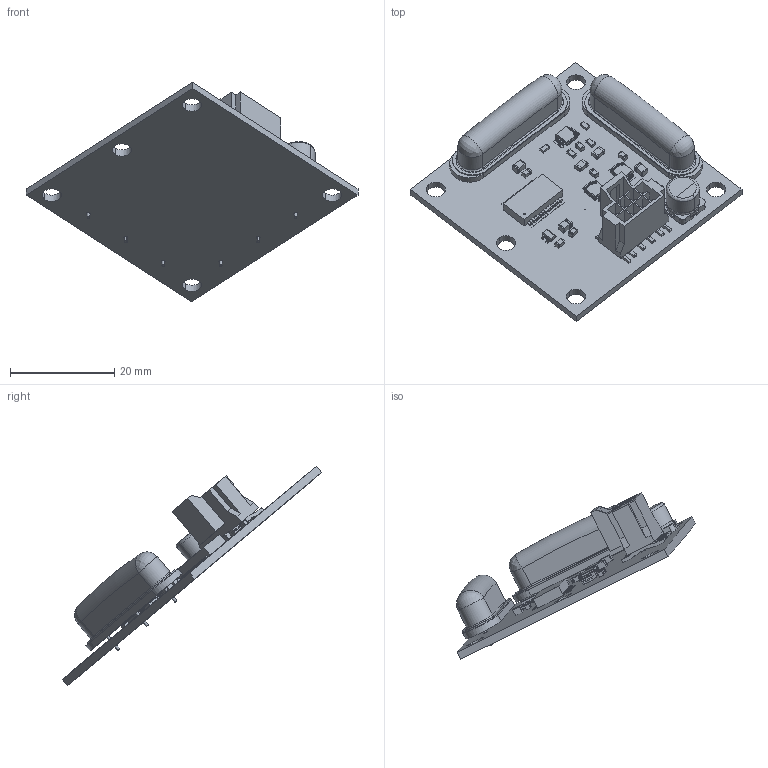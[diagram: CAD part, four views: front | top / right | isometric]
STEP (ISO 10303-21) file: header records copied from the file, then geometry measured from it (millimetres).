
FILE_DESCRIPTION (( 'STEP AP214' ), '1' );
FILE_NAME ('F203-00T-012-01.STEP', '2026-09-24T19:49:43', ( '' ), ( '' ), 'SwSTEP 2.0', 'SolidWorks 2024', '' );
FILE_SCHEMA (( 'AUTOMOTIVE_DESIGN' ));
Length unit declared in the file: inch
Products named in the file (1): F203-00T-012-01
Bounding box: 63.76 x 49.85 x 42.18 mm (x, y, z)
Volume: 4939 mm3; surface area: 9888.3 mm2
Topology: 146 solids, 146 shells, 2298 faces, 5211 edges, 3144 vertices
Faces by surface type: plane 1660, cylinder 528, sphere 46, bspline 36, cone 16, torus 12
Entity records: 90255 total; most frequent: CARTESIAN_POINT 15847, ORIENTED_EDGE 10298, DIRECTION 10119, EDGE_CURVE 5149, LINE 3655, VECTOR 3655, AXIS2_PLACEMENT_3D 3232, VERTEX_POINT 3144
